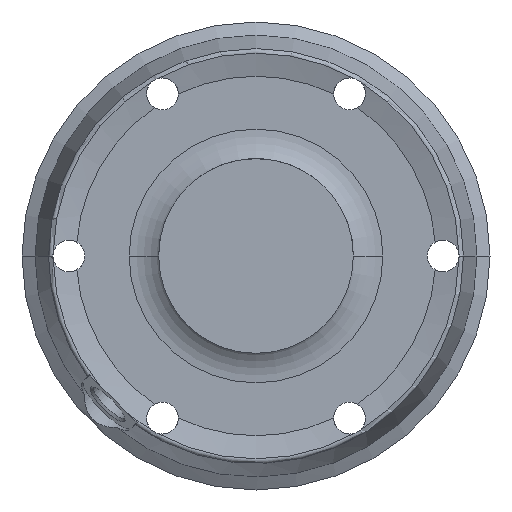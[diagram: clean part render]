
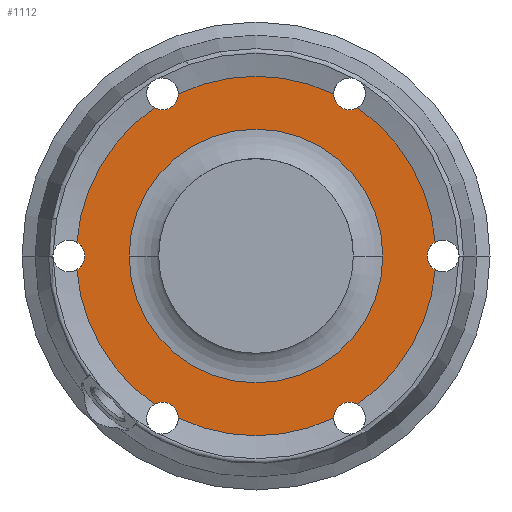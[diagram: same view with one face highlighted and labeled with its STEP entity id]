
A CAD part, left-side view. The second image highlights one B-rep face of the part: STEP entity #1112.
In plain terms, the highlighted planar face has unit normal (-1, 0, 0).
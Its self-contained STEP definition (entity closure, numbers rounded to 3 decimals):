
#40 = CARTESIAN_POINT ( 'NONE',  ( 1250., 0., 1570. ) ) ;
#71 = VERTEX_POINT ( 'NONE', #2030 ) ;
#79 = VERTEX_POINT ( 'NONE', #1989 ) ;
#146 = ORIENTED_EDGE ( 'NONE', *, *, #936, .F. ) ;
#181 = EDGE_LOOP ( 'NONE', ( #1457, #2854, #1481, #2747, #1338, #2635, #146, #1373, #2466, #635, #2416, #2908, #2506, #1685 ) ) ;
#189 = DIRECTION ( 'NONE',  ( 0., 1., 0. ) ) ;
#197 = CIRCLE ( 'NONE', #691, 33.875 ) ;
#208 = VERTEX_POINT ( 'NONE', #1482 ) ;
#210 = DIRECTION ( 'NONE',  ( 1., 0., 0. ) ) ;
#245 = CARTESIAN_POINT ( 'NONE',  ( 1250., 0., 1570. ) ) ;
#261 = CARTESIAN_POINT ( 'NONE',  ( 1250., 50., 1570. ) ) ;
#274 = DIRECTION ( 'NONE',  ( 0., -1., 0. ) ) ;
#279 = DIRECTION ( 'NONE',  ( -1., 0., 0. ) ) ;
#309 = CIRCLE ( 'NONE', #1008, 48. ) ;
#399 = VERTEX_POINT ( 'NONE', #1705 ) ;
#535 = DIRECTION ( 'NONE',  ( 0., -1., 0. ) ) ;
#537 = DIRECTION ( 'NONE',  ( 1., 0., 0. ) ) ;
#541 = CARTESIAN_POINT ( 'NONE',  ( 1250., 0., 1570. ) ) ;
#546 = AXIS2_PLACEMENT_3D ( 'NONE', #2272, #2264, #2262 ) ;
#578 = AXIS2_PLACEMENT_3D ( 'NONE', #245, #210, #189 ) ;
#594 = AXIS2_PLACEMENT_3D ( 'NONE', #1167, #1147, #1152 ) ;
#595 = AXIS2_PLACEMENT_3D ( 'NONE', #1203, #1200, #1191 ) ;
#598 = AXIS2_PLACEMENT_3D ( 'NONE', #40, #1356, #1300 ) ;
#600 = AXIS2_PLACEMENT_3D ( 'NONE', #1455, #1437, #1430 ) ;
#611 = AXIS2_PLACEMENT_3D ( 'NONE', #1973, #1948, #1958 ) ;
#635 = ORIENTED_EDGE ( 'NONE', *, *, #937, .F. ) ;
#638 = AXIS2_PLACEMENT_3D ( 'NONE', #2748, #2744, #2714 ) ;
#691 = AXIS2_PLACEMENT_3D ( 'NONE', #541, #537, #535 ) ;
#762 = VERTEX_POINT ( 'NONE', #1528 ) ;
#764 = AXIS2_PLACEMENT_3D ( 'NONE', #261, #279, #274 ) ;
#876 = CIRCLE ( 'NONE', #594, 48. ) ;
#884 = CIRCLE ( 'NONE', #1015, 4.25 ) ;
#893 = VERTEX_POINT ( 'NONE', #2876 ) ;
#922 = EDGE_CURVE ( 'NONE', #208, #1611, #309, .T. ) ;
#923 = EDGE_CURVE ( 'NONE', #1550, #2375, #1522, .T. ) ;
#929 = EDGE_CURVE ( 'NONE', #79, #399, #2821, .T. ) ;
#934 = EDGE_CURVE ( 'NONE', #1611, #893, #884, .T. ) ;
#936 = EDGE_CURVE ( 'NONE', #2756, #1485, #2147, .T. ) ;
#937 = EDGE_CURVE ( 'NONE', #1582, #1461, #1470, .T. ) ;
#959 = CIRCLE ( 'NONE', #600, 48. ) ;
#1006 = CIRCLE ( 'NONE', #546, 4.25 ) ;
#1008 = AXIS2_PLACEMENT_3D ( 'NONE', #2789, #2767, #2766 ) ;
#1012 = AXIS2_PLACEMENT_3D ( 'NONE', #2737, #2722, #2758 ) ;
#1014 = AXIS2_PLACEMENT_3D ( 'NONE', #2739, #2732, #2730 ) ;
#1015 = AXIS2_PLACEMENT_3D ( 'NONE', #2669, #2686, #2665 ) ;
#1020 = AXIS2_PLACEMENT_3D ( 'NONE', #2661, #2630, #2652 ) ;
#1022 = AXIS2_PLACEMENT_3D ( 'NONE', #2643, #2625, #2612 ) ;
#1061 = CIRCLE ( 'NONE', #598, 48. ) ;
#1112 = ADVANCED_FACE ( 'NONE', ( #2204, #2852 ), #2382, .T. ) ;
#1147 = DIRECTION ( 'NONE',  ( 1., 0., 0. ) ) ;
#1152 = DIRECTION ( 'NONE',  ( 0., 1., 0. ) ) ;
#1167 = CARTESIAN_POINT ( 'NONE',  ( 1250., 0., 1570. ) ) ;
#1191 = DIRECTION ( 'NONE',  ( 0., 1., 0. ) ) ;
#1197 = ORIENTED_EDGE ( 'NONE', *, *, #923, .T. ) ;
#1200 = DIRECTION ( 'NONE',  ( 1., 0., 0. ) ) ;
#1203 = CARTESIAN_POINT ( 'NONE',  ( 1250., 0., 1570. ) ) ;
#1300 = DIRECTION ( 'NONE',  ( 0., 1., 0. ) ) ;
#1325 = CARTESIAN_POINT ( 'NONE',  ( 1250., 33.875, 1570. ) ) ;
#1338 = ORIENTED_EDGE ( 'NONE', *, *, #2010, .F. ) ;
#1344 = AXIS2_PLACEMENT_3D ( 'NONE', #2401, #2410, #2406 ) ;
#1345 = EDGE_LOOP ( 'NONE', ( #1644, #1197 ) ) ;
#1353 = CARTESIAN_POINT ( 'NONE',  ( 1250., 20.75, 1526.717 ) ) ;
#1356 = DIRECTION ( 'NONE',  ( 1., 0., 0. ) ) ;
#1373 = ORIENTED_EDGE ( 'NONE', *, *, #1665, .F. ) ;
#1385 = CARTESIAN_POINT ( 'NONE',  ( 1250., 47.859, 1566.328 ) ) ;
#1403 = CARTESIAN_POINT ( 'NONE',  ( 1250., 47.859, 1573.672 ) ) ;
#1412 = CIRCLE ( 'NONE', #578, 48. ) ;
#1419 = CARTESIAN_POINT ( 'NONE',  ( 1250., -20.75, 1613.283 ) ) ;
#1430 = DIRECTION ( 'NONE',  ( 0., 1., 0. ) ) ;
#1437 = DIRECTION ( 'NONE',  ( 1., 0., 0. ) ) ;
#1445 = CARTESIAN_POINT ( 'NONE',  ( 1250., -27.109, 1530.388 ) ) ;
#1455 = CARTESIAN_POINT ( 'NONE',  ( 1250., 0., 1570. ) ) ;
#1457 = ORIENTED_EDGE ( 'NONE', *, *, #929, .F. ) ;
#1461 = VERTEX_POINT ( 'NONE', #1493 ) ;
#1464 = CIRCLE ( 'NONE', #595, 48. ) ;
#1470 = CIRCLE ( 'NONE', #1022, 4.25 ) ;
#1481 = ORIENTED_EDGE ( 'NONE', *, *, #2371, .F. ) ;
#1482 = CARTESIAN_POINT ( 'NONE',  ( 1250., -47.859, 1566.328 ) ) ;
#1485 = VERTEX_POINT ( 'NONE', #1403 ) ;
#1492 = CIRCLE ( 'NONE', #638, 4.25 ) ;
#1493 = CARTESIAN_POINT ( 'NONE',  ( 1250., 27.109, 1530.388 ) ) ;
#1503 = VERTEX_POINT ( 'NONE', #1419 ) ;
#1522 = CIRCLE ( 'NONE', #1012, 33.875 ) ;
#1526 = VERTEX_POINT ( 'NONE', #1385 ) ;
#1528 = CARTESIAN_POINT ( 'NONE',  ( 1250., 27.109, 1609.612 ) ) ;
#1550 = VERTEX_POINT ( 'NONE', #1325 ) ;
#1582 = VERTEX_POINT ( 'NONE', #1353 ) ;
#1611 = VERTEX_POINT ( 'NONE', #1445 ) ;
#1644 = ORIENTED_EDGE ( 'NONE', *, *, #1843, .T. ) ;
#1665 = EDGE_CURVE ( 'NONE', #1526, #2756, #2002, .T. ) ;
#1685 = ORIENTED_EDGE ( 'NONE', *, *, #2139, .F. ) ;
#1705 = CARTESIAN_POINT ( 'NONE',  ( 1250., -45.75, 1570. ) ) ;
#1800 = CARTESIAN_POINT ( 'NONE',  ( 1250., 45.75, 1570. ) ) ;
#1843 = EDGE_CURVE ( 'NONE', #2375, #1550, #197, .T. ) ;
#1854 = CARTESIAN_POINT ( 'NONE',  ( 1250., 20.75, 1613.283 ) ) ;
#1948 = DIRECTION ( 'NONE',  ( -1., 0., 0. ) ) ;
#1958 = DIRECTION ( 'NONE',  ( 0., -1., 0. ) ) ;
#1973 = CARTESIAN_POINT ( 'NONE',  ( 1250., -50., 1570. ) ) ;
#1989 = CARTESIAN_POINT ( 'NONE',  ( 1250., -47.859, 1573.672 ) ) ;
#2002 = CIRCLE ( 'NONE', #764, 4.25 ) ;
#2010 = EDGE_CURVE ( 'NONE', #762, #2521, #1492, .T. ) ;
#2030 = CARTESIAN_POINT ( 'NONE',  ( 1250., -27.109, 1609.612 ) ) ;
#2139 = EDGE_CURVE ( 'NONE', #399, #208, #2348, .T. ) ;
#2147 = CIRCLE ( 'NONE', #1020, 4.25 ) ;
#2194 = EDGE_CURVE ( 'NONE', #1461, #1526, #959, .T. ) ;
#2195 = EDGE_CURVE ( 'NONE', #71, #79, #1061, .T. ) ;
#2197 = EDGE_CURVE ( 'NONE', #893, #1582, #1464, .T. ) ;
#2202 = EDGE_CURVE ( 'NONE', #1485, #762, #876, .T. ) ;
#2204 = FACE_BOUND ( 'NONE', #1345, .T. ) ;
#2235 = EDGE_CURVE ( 'NONE', #2521, #1503, #1412, .T. ) ;
#2262 = DIRECTION ( 'NONE',  ( 0., -1., 0. ) ) ;
#2264 = DIRECTION ( 'NONE',  ( -1., 0., 0. ) ) ;
#2272 = CARTESIAN_POINT ( 'NONE',  ( 1250., -25., 1613.301 ) ) ;
#2348 = CIRCLE ( 'NONE', #611, 4.25 ) ;
#2370 = CARTESIAN_POINT ( 'NONE',  ( 1250., -33.875, 1570. ) ) ;
#2371 = EDGE_CURVE ( 'NONE', #1503, #71, #1006, .T. ) ;
#2375 = VERTEX_POINT ( 'NONE', #2370 ) ;
#2382 = PLANE ( 'NONE',  #1344 ) ;
#2401 = CARTESIAN_POINT ( 'NONE',  ( 1250., 0., 1618. ) ) ;
#2406 = DIRECTION ( 'NONE',  ( 0., -1., 0. ) ) ;
#2410 = DIRECTION ( 'NONE',  ( -1., 0., 0. ) ) ;
#2416 = ORIENTED_EDGE ( 'NONE', *, *, #2197, .F. ) ;
#2466 = ORIENTED_EDGE ( 'NONE', *, *, #2194, .F. ) ;
#2506 = ORIENTED_EDGE ( 'NONE', *, *, #922, .F. ) ;
#2521 = VERTEX_POINT ( 'NONE', #1854 ) ;
#2612 = DIRECTION ( 'NONE',  ( 0., -1., 0. ) ) ;
#2625 = DIRECTION ( 'NONE',  ( -1., 0., 0. ) ) ;
#2630 = DIRECTION ( 'NONE',  ( -1., 0., 0. ) ) ;
#2635 = ORIENTED_EDGE ( 'NONE', *, *, #2202, .F. ) ;
#2643 = CARTESIAN_POINT ( 'NONE',  ( 1250., 25., 1526.699 ) ) ;
#2652 = DIRECTION ( 'NONE',  ( 0., -1., 0. ) ) ;
#2661 = CARTESIAN_POINT ( 'NONE',  ( 1250., 50., 1570. ) ) ;
#2665 = DIRECTION ( 'NONE',  ( 0., -1., 0. ) ) ;
#2669 = CARTESIAN_POINT ( 'NONE',  ( 1250., -25., 1526.699 ) ) ;
#2686 = DIRECTION ( 'NONE',  ( -1., 0., 0. ) ) ;
#2714 = DIRECTION ( 'NONE',  ( 0., -1., 0. ) ) ;
#2722 = DIRECTION ( 'NONE',  ( 1., 0., 0. ) ) ;
#2730 = DIRECTION ( 'NONE',  ( 0., -1., 0. ) ) ;
#2732 = DIRECTION ( 'NONE',  ( -1., 0., 0. ) ) ;
#2737 = CARTESIAN_POINT ( 'NONE',  ( 1250., 0., 1570. ) ) ;
#2739 = CARTESIAN_POINT ( 'NONE',  ( 1250., -50., 1570. ) ) ;
#2744 = DIRECTION ( 'NONE',  ( -1., 0., 0. ) ) ;
#2747 = ORIENTED_EDGE ( 'NONE', *, *, #2235, .F. ) ;
#2748 = CARTESIAN_POINT ( 'NONE',  ( 1250., 25., 1613.301 ) ) ;
#2756 = VERTEX_POINT ( 'NONE', #1800 ) ;
#2758 = DIRECTION ( 'NONE',  ( 0., -1., 0. ) ) ;
#2766 = DIRECTION ( 'NONE',  ( 0., 1., 0. ) ) ;
#2767 = DIRECTION ( 'NONE',  ( 1., 0., 0. ) ) ;
#2789 = CARTESIAN_POINT ( 'NONE',  ( 1250., 0., 1570. ) ) ;
#2821 = CIRCLE ( 'NONE', #1014, 4.25 ) ;
#2852 = FACE_OUTER_BOUND ( 'NONE', #181, .T. ) ;
#2854 = ORIENTED_EDGE ( 'NONE', *, *, #2195, .F. ) ;
#2876 = CARTESIAN_POINT ( 'NONE',  ( 1250., -20.75, 1526.717 ) ) ;
#2908 = ORIENTED_EDGE ( 'NONE', *, *, #934, .F. ) ;
